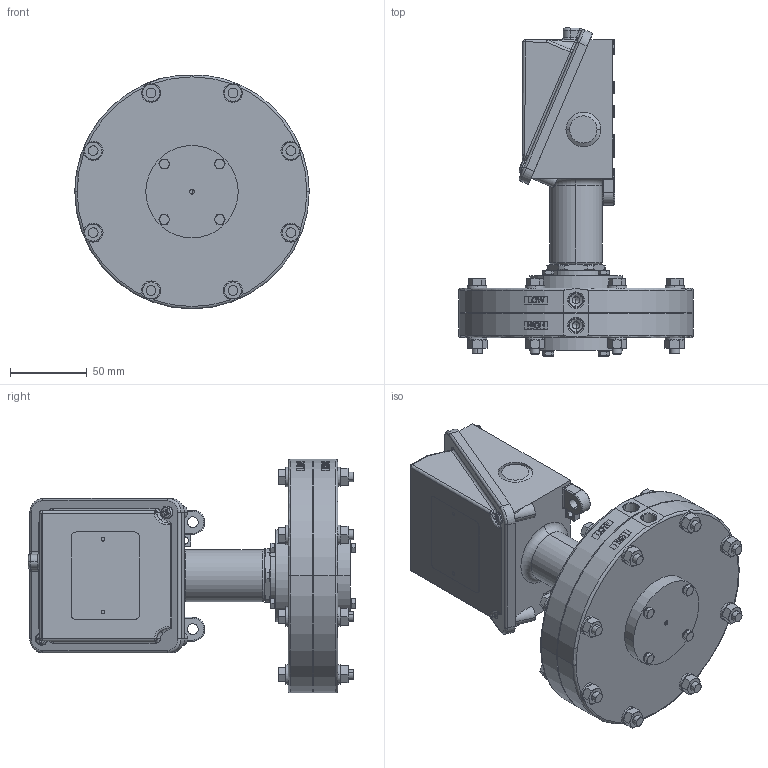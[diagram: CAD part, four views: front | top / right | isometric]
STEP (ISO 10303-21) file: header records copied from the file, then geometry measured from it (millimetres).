
FILE_DESCRIPTION (( 'STEP AP214' ), '1' );
FILE_NAME ('H100K-540_543_V1.STEP', '2025-02-21T19:24:47', ( '' ), ( '' ), 'SwSTEP 2.0', 'SolidWorks 2023', '' );
FILE_SCHEMA (( 'AUTOMOTIVE_DESIGN' ));
Length unit declared in the file: inch
Products named in the file (1): H100K-540_543_V1
Bounding box: 153.16 x 214.2 x 152.75 mm (x, y, z)
Volume: 742947.9 mm3; surface area: 254294.2 mm2
Topology: 68 solids, 68 shells, 1733 faces, 4029 edges, 2467 vertices
Faces by surface type: plane 637, cylinder 626, cone 248, torus 127, bspline 59, sphere 36
Entity records: 53736 total; most frequent: CARTESIAN_POINT 13527, DIRECTION 8460, ORIENTED_EDGE 7930, EDGE_CURVE 3965, AXIS2_PLACEMENT_3D 3344, VERTEX_POINT 2467, EDGE_LOOP 1950, VECTOR 1772
